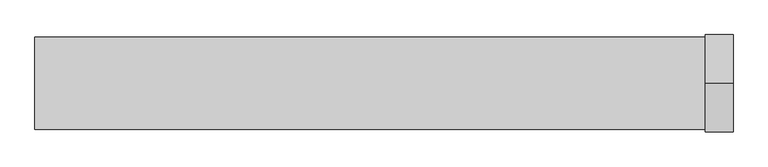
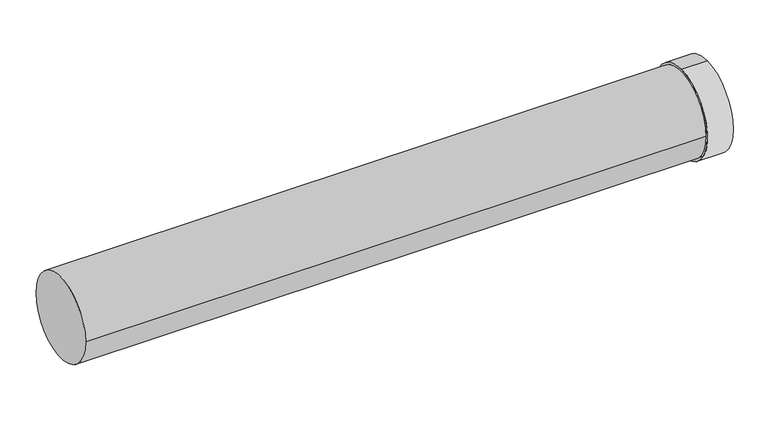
"""IFC4 building model written with IfcOpenShell, lengths in millimetres: duct fitting geometry, RSFen_DUF_UN_Twinline Extension_M&G : ø130-150-200."""

from ifc_helpers import new_model, si_unit, point, frame, origin, origin_2d, place, context, project, spatial, polyline, circle_curve, trimmed, segment, composite_curve, outline, extrude, source, transform, mapped, element, save
from ifc_brep_helpers import plane_surface, cylinder_surface, revolved_surface, advanced_brep


def duct_fitting_4e1b977e(model_context):
    return source(origin(), model_context, "Body", "SolidModel", [
        advanced_brep(
        [(1131.1495188, 0.0, -79.0), (1131.1495188, 0.0, 79.0), (1131.1495188, 0.0, 75.5), (1131.1495188, 0.0, -75.5), (1086.1495188, 0.0, -79.0), (1086.1495188, 0.0, 79.0), (1091.1495188, 0.0, -75.5), (1091.1495188, 0.0, 75.5)],
        [
            (0, 1, circle_curve(frame((1131.1495188, 0.0, 0.0), z_axis=(1.0, 0.0, 0.0), x_axis=(0.0, 0.0, 1.0)), 79.0)),
            (1, 0, circle_curve(frame((1131.1495188, 0.0, 0.0), z_axis=(1.0, 0.0, 0.0), x_axis=(0.0, 0.0, 1.0)), 79.0)),
            (2, 3, circle_curve(frame((1131.1495188, 0.0, 0.0), z_axis=(-1.0, 0.0, 0.0), x_axis=(0.0, 0.0, 1.0)), 75.5)),
            (3, 2, circle_curve(frame((1131.1495188, 0.0, 0.0), z_axis=(-1.0, 0.0, 0.0), x_axis=(0.0, 0.0, 1.0)), 75.5)),
            (4, 5, circle_curve(frame((1086.1495188, 0.0, 0.0), z_axis=(-1.0, 0.0, 0.0), x_axis=(0.0, 0.0, 1.0)), 79.0)),
            (5, 4, circle_curve(frame((1086.1495188, 0.0, 0.0), z_axis=(-1.0, 0.0, 0.0), x_axis=(0.0, 0.0, 1.0)), 79.0)),
            (0, 4),
            (5, 1),
            (6, 7, circle_curve(frame((1091.1495188, 0.0, 0.0), z_axis=(1.0, 0.0, 0.0), x_axis=(0.0, 0.0, 1.0)), 75.5)),
            (7, 6, circle_curve(frame((1091.1495188, 0.0, 0.0), z_axis=(1.0, 0.0, 0.0), x_axis=(0.0, 0.0, 1.0)), 75.5)),
            (6, 3),
            (2, 7),
        ],
        [
            plane_surface(frame((1131.1495188, 0.0, 79.0), z_axis=(1.0, 0.0, 0.0), x_axis=(0.0, -1.0, 0.0))),
            plane_surface(frame((1086.1495188, 0.0, 79.0), z_axis=(-1.0, 0.0, 0.0), x_axis=(0.0, 1.0, 0.0))),
            cylinder_surface(frame((1086.1495188, 0.0, 0.0), z_axis=(1.0, 0.0, 0.0), x_axis=(0.0, 0.0, 1.0)), 79.0),
            plane_surface(frame((1091.1495188, 0.0, 75.5), z_axis=(1.0, 0.0, 0.0), x_axis=(0.0, 1.0, 0.0))),
            revolved_surface(polyline([(1131.1495188, 0.0, 75.5), (1091.1495188, 0.0, 75.5)]), (1091.1495188, 0.0, 0.0), (1.0, 0.0, 0.0)),
        ],
        [
            (0, [[1, 2], [3, 4]]),
            (1, [[5, 6]]),
            (2, [[-1, 7, -6, 8]]),
            (2, [[-2, -8, -5, -7]]),
            (3, [[9, 10]]),
            (4, [[-9, 11, -3, 12]]),
            (4, [[-10, -12, -4, -11]]),
        ],
    ),
        extrude(outline(composite_curve([segment(trimmed(circle_curve(origin_2d(), 75.0), [point((75.0, 0.0))], [point((-75.0, 0.0))], False, "CARTESIAN"), True, "CONTINUOUS"), segment(trimmed(circle_curve(origin_2d(), 75.0), [point((-75.0, 0.0))], [point((75.0, 0.0))], False, "CARTESIAN"), True, "CONTINUOUS")], self_intersect=False)), frame((-2.39e-05, 0.0, 0.0), z_axis=(1.0, 0.0, 0.0), x_axis=(0.0, 1.0, 0.0)), (0.0, 0.0, 1.0), 1091.1495188),
    ])


if __name__ == "__main__":
    model = new_model("IFC4")
    model_context = context("Model", 3, world=origin())
    ifc_project = project(units=[si_unit("LENGTHUNIT", "METRE", prefix="MILLI")], contexts=[model_context])
    site = spatial("IfcSite", under=ifc_project)
    building = spatial("IfcBuilding", under=site)
    placement = place(None, origin())
    duct_fitting_shape = duct_fitting_4e1b977e(model_context)
    element("IfcDuctFitting", 1, ObjectType="RSFen_DUF_UN_Twinline Extension_M&G : ø130-150-200", at=placement, inside=building, context=model_context, shape_type="MappedRepresentation", body=[
        mapped(duct_fitting_shape, transform((0.0, 0.0, 0.0), x_axis=(1.0, 0.0, 0.0), y_axis=(0.0, 1.0, 0.0), z_axis=(0.0, 0.0, 1.0))),
    ])
    save(model, "model.ifc")
